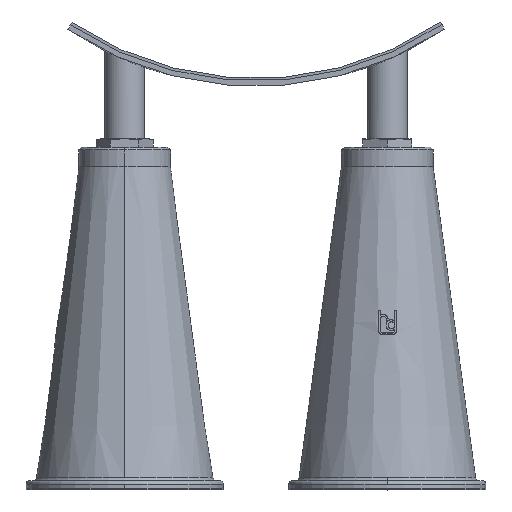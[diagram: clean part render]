
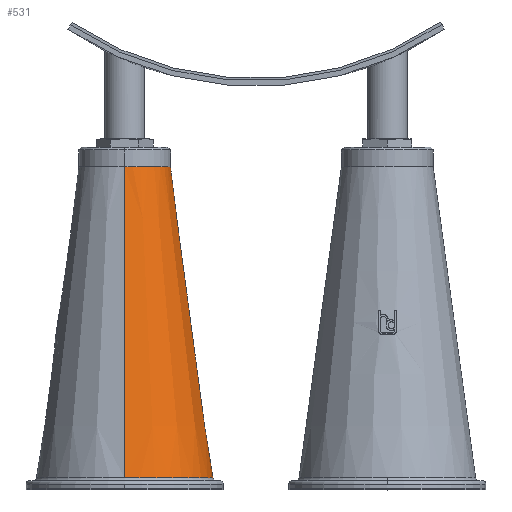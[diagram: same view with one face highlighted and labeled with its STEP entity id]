
A CAD part, front view. The second image highlights one B-rep face of the part: STEP entity #531.
In plain terms, the highlighted conical face has half-angle 7.768 degrees and reference radius 102.093 mm.
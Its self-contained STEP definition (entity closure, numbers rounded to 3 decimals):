
#531=ADVANCED_FACE('',(#1114),#1115,.T.);
#1114=FACE_OUTER_BOUND('',#1812,.T.);
#1115=CONICAL_SURFACE('',#1813,102.093,0.136);
#1812=EDGE_LOOP('',(#3135,#3136,#3137,#3138,#3139));
#1813=AXIS2_PLACEMENT_3D('',#3140,#3141,#3142);
#3135=ORIENTED_EDGE('',*,*,#4320,.T.);
#3136=ORIENTED_EDGE('',*,*,#4401,.F.);
#3137=ORIENTED_EDGE('',*,*,#4261,.F.);
#3138=ORIENTED_EDGE('',*,*,#4322,.T.);
#3139=ORIENTED_EDGE('',*,*,#4402,.T.);
#3140=CARTESIAN_POINT('',(8.211,528.029,-12.338));
#3141=DIRECTION('',(0.,0.,-1.0));
#3142=DIRECTION('',(0.,-1.0,0.));
#4261=EDGE_CURVE('',#5120,#5122,#5123,.T.);
#4320=EDGE_CURVE('',#5227,#5228,#5229,.T.);
#4322=EDGE_CURVE('',#5120,#5230,#5232,.T.);
#4401=EDGE_CURVE('',#5122,#5228,#5356,.T.);
#4402=EDGE_CURVE('',#5230,#5227,#5357,.T.);
#5120=VERTEX_POINT('',#7042);
#5122=VERTEX_POINT('',#7044);
#5123=CIRCLE('',#7045,134.41);
#5227=VERTEX_POINT('',#7503);
#5228=VERTEX_POINT('',#7504);
#5229=LINE('',#7505,#7506);
#5230=VERTEX_POINT('',#7507);
#5232=LINE('',#7509,#7510);
#5356=CIRCLE('',#7994,134.41);
#5357=CIRCLE('',#7995,69.775);
#7042=CARTESIAN_POINT('',(8.211,662.439,-249.231));
#7044=CARTESIAN_POINT('',(142.621,528.029,-249.231));
#7045=AXIS2_PLACEMENT_3D('',#9657,#9658,#9659);
#7503=CARTESIAN_POINT('',(8.211,458.254,224.555));
#7504=CARTESIAN_POINT('',(8.211,393.619,-249.231));
#7505=CARTESIAN_POINT('',(8.211,425.937,-12.338));
#7506=VECTOR('',#9729,1.0);
#7507=CARTESIAN_POINT('',(8.211,597.805,224.555));
#7509=CARTESIAN_POINT('',(8.211,630.122,-12.338));
#7510=VECTOR('',#9733,1.0);
#7994=AXIS2_PLACEMENT_3D('',#9814,#9815,#9816);
#7995=AXIS2_PLACEMENT_3D('',#9817,#9818,#9819);
#9657=CARTESIAN_POINT('',(8.211,528.029,-249.231));
#9658=DIRECTION('',(0.,0.,-1.0));
#9659=DIRECTION('',(0.,-1.0,0.));
#9729=DIRECTION('',(0.,-0.135,-0.991));
#9733=DIRECTION('',(0.,-0.135,0.991));
#9814=CARTESIAN_POINT('',(8.211,528.029,-249.231));
#9815=DIRECTION('',(0.,0.,-1.0));
#9816=DIRECTION('',(0.,-1.0,0.));
#9817=CARTESIAN_POINT('',(8.211,528.029,224.555));
#9818=DIRECTION('',(0.,0.,-1.0));
#9819=DIRECTION('',(0.,-1.0,0.));
